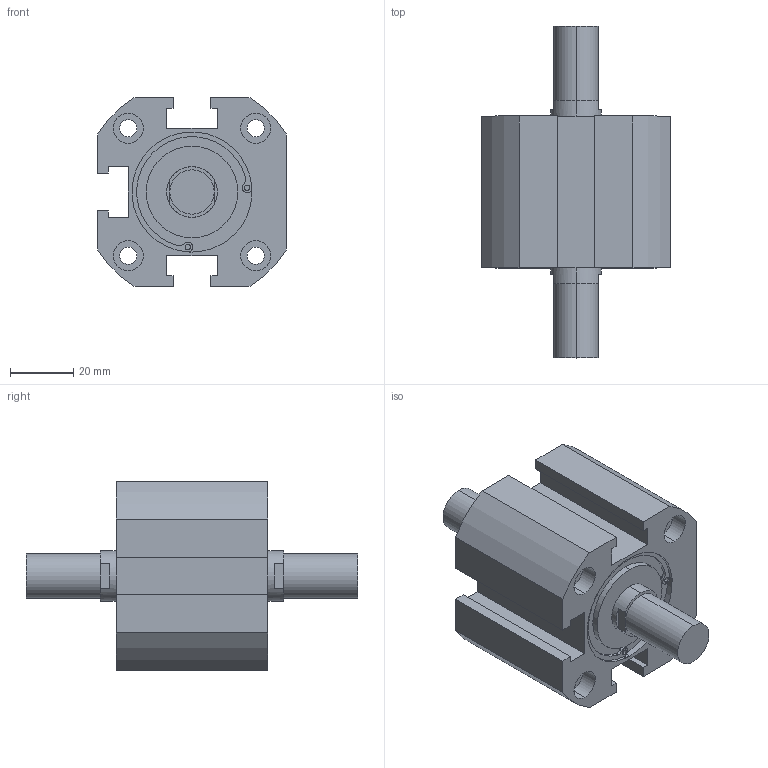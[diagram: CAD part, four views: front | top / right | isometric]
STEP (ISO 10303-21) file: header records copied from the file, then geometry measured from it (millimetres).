
FILE_DESCRIPTION (( 'STEP AP203' ), '1' );
FILE_NAME ('XG#M7-40D-10.STEP', '2016-05-24T02:24:13', ( '' ), ( '' ), 'SwSTEP 2.0', 'SolidWorks 2014', '' );
FILE_SCHEMA (( 'CONFIG_CONTROL_DESIGN' ));
Length unit declared in the file: millimetre
Products named in the file (1): XG#M7-40D-10
Bounding box: 60 x 105 x 60 mm (x, y, z)
Volume: 139967.2 mm3; surface area: 27838.2 mm2
Topology: 1 solids, 1 shells, 149 faces, 369 edges, 240 vertices
Faces by surface type: cylinder 77, plane 64, cone 8
Entity records: 4546 total; most frequent: DIRECTION 839, CARTESIAN_POINT 755, ORIENTED_EDGE 730, EDGE_CURVE 365, AXIS2_PLACEMENT_3D 324, VERTEX_POINT 240, VECTOR 191, LINE 191
